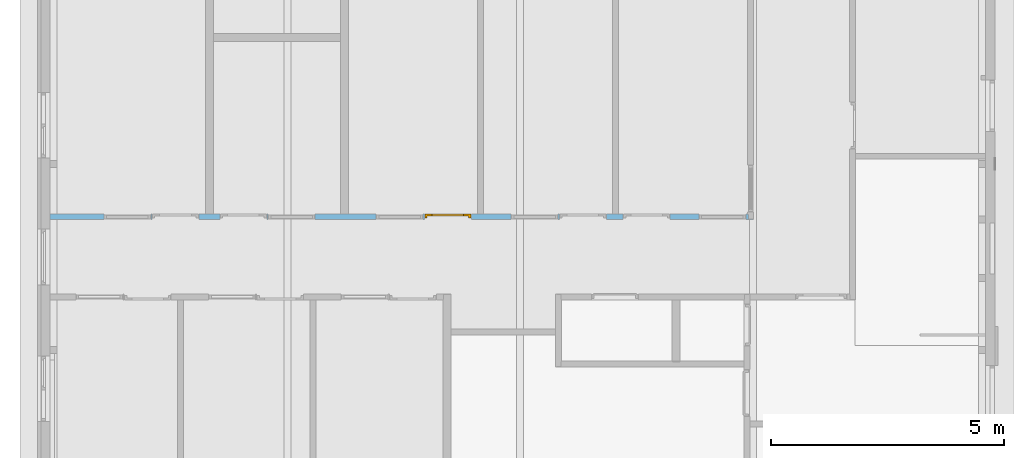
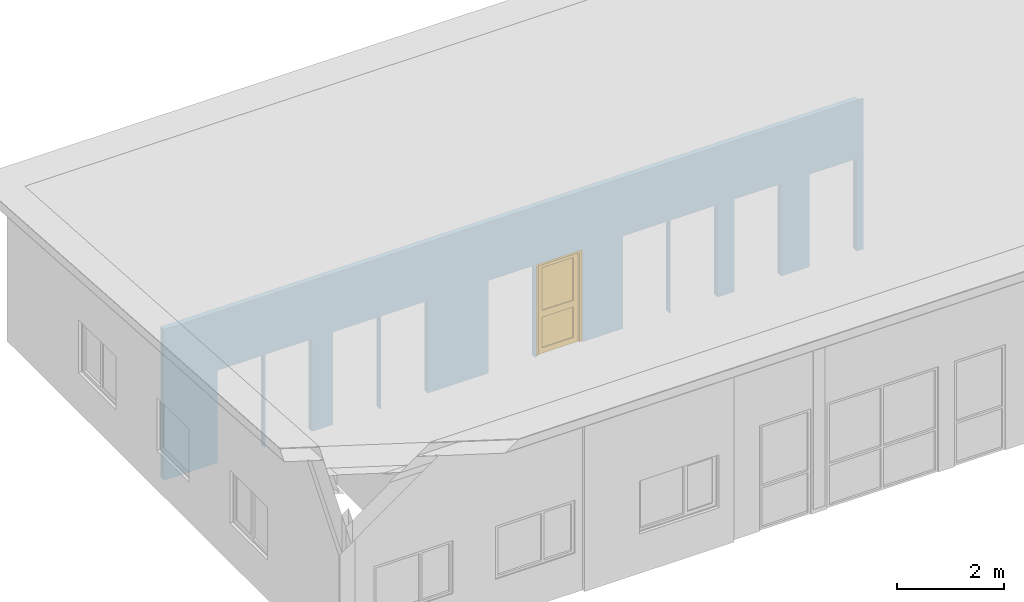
# One storey, part 20 of 37: 1 door, 10 openings, plus 1 element that does not belong to this part.
"""IFC2X3 building model written with IfcOpenShell, lengths in millimetres."""

from ifc_helpers import new_model, entity, si_unit, converted_unit, frame, frame_2d, origin, origin_with_axes, place, context, subcontext, project, spatial, polyline, rectangle, outline, extrude, clip, halfspace, faceted_brep, material, layer, layer_set, layer_usage, type_object, element, fill, save


model = new_model("IFC2X3")

# Units and contexts
model_context = context("Model", 3, precision=1e-05, world=origin())
plan_context = context("Plan", 3, precision=1e-05, world=origin())
body_context = subcontext(model_context, "Body", "Model", "MODEL_VIEW")
ifc_project = project(units=[si_unit("LENGTHUNIT", "METRE", prefix="MILLI"), converted_unit("PLANEANGLEUNIT", "DEGREE", entity("IfcPlaneAngleMeasure", 0.0174532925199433), si_unit("PLANEANGLEUNIT", "RADIAN"), dimensions=[0, 0, 0, 0, 0, 0, 0]), si_unit("AREAUNIT", "SQUARE_METRE"), si_unit("VOLUMEUNIT", "CUBIC_METRE")], contexts=[model_context, plan_context])

# Building, storey
building_placement = place(None, origin())
building = spatial("IfcBuilding", under=ifc_project, at=building_placement, Name="HEKF Administrasjonbygg", CompositionType="ELEMENT")
storey_placement = place(building_placement, frame((0.0, 0.0, 9900.0), z_axis=(0.0, 0.0, 1.0), x_axis=(1.0, 0.0, 0.0)))
storey = spatial("IfcBuildingStorey", under=building, at=storey_placement, Name="Plan 2", CompositionType="ELEMENT", Elevation=9900.0)

# Wall, openings, door
ifc_material_1 = material(Name="gips")
ifc_layer_1 = layer(ifc_material_1, 13.0)
ifc_material_2 = material(Name="riegel stål 100")
ifc_layer_2 = layer(ifc_material_2, 100.0)
ifc_material_3 = material(Name="gips")
ifc_layer_3 = layer(ifc_material_3, 13.0)
ifc_layer_set = layer_set([ifc_layer_1, ifc_layer_2, ifc_layer_3])
ifc_layer_usage = layer_usage(ifc_layer_set, "AXIS2", "POSITIVE", 0.0)
wall_placement = place(storey_placement, frame((24887.0, -5075.0, 0.0), z_axis=(0.0, 0.0, 1.0), x_axis=(-1.0, 0.0, 0.0)))
wall = element("IfcWallStandardCase", 1, at=wall_placement, inside=storey, material=ifc_layer_usage, context=body_context, shape_type="Clipping", body=[
    clip(extrude(outline(polyline([(-113.0, 126.0), (-113.0, 113.0), (-13.0, 113.0), (-13.0, 13.0), (0.0, 13.0), (0.0, 0.0), (2774.0, 0.0), (2774.0, 13.0), (2787.0, 13.0), (2787.0, 0.0), (14987.00000000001, 0.0), (14987.00000000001, 126.0), (-113.0, 126.0)])), origin_with_axes(), (0.0, 0.0, 1.0), 3446.733333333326), halfspace(frame((2787.0, 0.0, 3438.333333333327), z_axis=(-9.402241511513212e-18, 0.06651901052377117, -0.9977851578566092), x_axis=(1.0, 0.0, 0.0)), True)),
])
opening_1_placement = place(wall_placement, frame((9293.284477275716, 0.0, 0.0), z_axis=(0.0, 1.0, 0.0), x_axis=(0.0, 0.0, 1.0)))
element("IfcOpeningElement", 2, at=opening_1_placement, cuts=wall, Name="Window opening", ObjectType="Opening", context=body_context, shape_type="SweptSolid", body=[
    extrude(rectangle(XDim=2110.0, YDim=1010.0, at=frame_2d((1055.0, 505.0), x_axis=(1.0, 0.0))), origin_with_axes(), (0.0, 0.0, 1.0), 126.0),
])
opening_2_placement = place(wall_placement, frame((6972.0, 0.0, 0.0), z_axis=(0.0, 1.0, 0.0), x_axis=(0.0, 0.0, 1.0)))
element("IfcOpeningElement", 3, at=opening_2_placement, cuts=wall, Name="Window opening", ObjectType="Opening", context=body_context, shape_type="SweptSolid", body=[
    extrude(rectangle(XDim=2110.0, YDim=1010.0, at=frame_2d((1055.0, 505.0), x_axis=(1.0, 0.0))), origin_with_axes(), (0.0, 0.0, 1.0), 126.0),
])
opening_3_placement = place(wall_placement, frame((12823.28447727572, 0.0, 0.0), z_axis=(0.0, 1.0, 0.0), x_axis=(0.0, 0.0, 1.0)))
element("IfcOpeningElement", 4, at=opening_3_placement, cuts=wall, Name="Window opening", ObjectType="Opening", context=body_context, shape_type="SweptSolid", body=[
    extrude(rectangle(XDim=2110.0, YDim=1010.0, at=frame_2d((1055.0, 505.0), x_axis=(1.0, 0.0))), origin_with_axes(), (0.0, 0.0, 1.0), 126.0),
])
opening_4_placement = place(wall_placement, frame((4072.0, 0.0, 0.0), z_axis=(0.0, 1.0, 0.0), x_axis=(0.0, 0.0, 1.0)))
element("IfcOpeningElement", 5, at=opening_4_placement, cuts=wall, Name="Window opening", ObjectType="Opening", context=body_context, shape_type="SweptSolid", body=[
    extrude(rectangle(XDim=2110.0, YDim=1010.0, at=frame_2d((1055.0, 505.0), x_axis=(1.0, 0.0))), origin_with_axes(), (0.0, 0.0, 1.0), 126.0),
])
opening_5_placement = place(wall_placement, frame((37.0, 0.0, 0.0), z_axis=(0.0, 1.0, 0.0), x_axis=(0.0, 0.0, 1.0)))
element("IfcOpeningElement", 6, at=opening_5_placement, cuts=wall, Name="Window opening", ObjectType="Opening", context=body_context, shape_type="SweptSolid", body=[
    extrude(rectangle(XDim=2110.0, YDim=1010.0, at=frame_2d((1055.0, 505.0), x_axis=(1.0, 0.0))), origin_with_axes(), (0.0, 0.0, 1.0), 126.0),
])
opening_6_placement = place(wall_placement, frame((11788.28447727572, 0.0, 0.0), z_axis=(0.0, 1.0, 0.0), x_axis=(0.0, 0.0, 1.0)))
element("IfcOpeningElement", 7, at=opening_6_placement, cuts=wall, Name="garasjeport med glassfelter:45x6", ObjectType="Opening", context=body_context, shape_type="SweptSolid", body=[
    extrude(rectangle(XDim=2110.0, YDim=1010.0, at=frame_2d((1055.0, 505.0), x_axis=(1.0, 0.0))), origin_with_axes(), (0.0, 0.0, 1.0), 126.0),
])
opening_7_placement = place(wall_placement, frame((10328.28447727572, 0.0, 0.0), z_axis=(0.0, 1.0, 0.0), x_axis=(0.0, 0.0, 1.0)))
element("IfcOpeningElement", 8, at=opening_7_placement, cuts=wall, Name="garasjeport med glassfelter:45x6", ObjectType="Opening", context=body_context, shape_type="SweptSolid", body=[
    extrude(rectangle(XDim=2110.0, YDim=1010.0, at=frame_2d((1055.0, 505.0), x_axis=(1.0, 0.0))), origin_with_axes(), (0.0, 0.0, 1.0), 126.0),
])
opening_8_placement = place(wall_placement, frame((5937.0, 0.0, 0.0), z_axis=(0.0, 1.0, 0.0), x_axis=(0.0, 0.0, 1.0)))
opening_8 = element("IfcOpeningElement", 9, at=opening_8_placement, cuts=wall, Name="garasjeport med glassfelter:45x6", ObjectType="Opening", context=body_context, shape_type="SweptSolid", body=[
    extrude(rectangle(XDim=2110.0, YDim=1010.0, at=frame_2d((1055.0, 505.0), x_axis=(1.0, 0.0))), origin_with_axes(), (0.0, 0.0, 1.0), 126.0),
])
opening_9_placement = place(wall_placement, frame((3037.0, 0.0, 0.0), z_axis=(0.0, 1.0, 0.0), x_axis=(0.0, 0.0, 1.0)))
element("IfcOpeningElement", 10, at=opening_9_placement, cuts=wall, Name="garasjeport med glassfelter:45x6", ObjectType="Opening", context=body_context, shape_type="SweptSolid", body=[
    extrude(rectangle(XDim=2110.0, YDim=1010.0, at=frame_2d((1055.0, 505.0), x_axis=(1.0, 0.0))), origin_with_axes(), (0.0, 0.0, 1.0), 126.0),
])
opening_10_placement = place(wall_placement, frame((1664.0, 0.0, 0.0), z_axis=(0.0, 1.0, 0.0), x_axis=(0.0, 0.0, 1.0)))
element("IfcOpeningElement", 11, at=opening_10_placement, cuts=wall, Name="garasjeport med glassfelter:45x6", ObjectType="Opening", context=body_context, shape_type="SweptSolid", body=[
    extrude(rectangle(XDim=2110.0, YDim=1010.0, at=frame_2d((1055.0, 505.0), x_axis=(1.0, 0.0))), origin_with_axes(), (0.0, 0.0, 1.0), 126.0),
])
ifc_material_4 = material()
door_style = type_object("IfcDoorStyle", Name="D109", ConstructionType="NOTDEFINED", OperationType="USERDEFINED", ParameterTakesPrecedence=False, Sizeable=False)
door_placement = place(opening_8_placement, frame((0.0, 0.0, 0.0), z_axis=(1.0, 0.0, 0.0), x_axis=(0.0, 1.0, 0.0)))
door = element("IfcDoor", 12, at=door_placement, inside=storey, type_object=door_style, material=ifc_material_4, Name="D109", OverallHeight=2110.0, OverallWidth=1010.0, context=body_context, shape_type="Brep", body=[
    faceted_brep([(9.999999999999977, 0.9999999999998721, 2090.0), (59.99999999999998, 0.9999999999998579, 2090.0), (59.99999999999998, 0.9999999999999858, -2.816687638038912e-15), (9.999999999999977, 1.0, -2.816687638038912e-15), (10.0, 93.00000000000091, 2.816687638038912e-15), (60.0, 93.0000000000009, 2.816687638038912e-15), (60.0, 93.00000000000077, 2090.0), (10.0, 93.00000000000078, 2090.0), (9.999999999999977, 1.0, -2.816687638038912e-15), (10.0, 93.00000000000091, 2.816687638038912e-15), (10.0, 93.00000000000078, 2090.0), (9.999999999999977, 0.9999999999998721, 2090.0), (59.99999999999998, 0.9999999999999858, -2.816687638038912e-15), (60.0, 93.0000000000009, 2.816687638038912e-15), (10.0, 93.00000000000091, 2.816687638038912e-15), (9.999999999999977, 1.0, -2.816687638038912e-15), (59.99999999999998, 0.9999999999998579, 2090.0), (60.0, 93.00000000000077, 2090.0), (60.0, 93.0000000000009, 2.816687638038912e-15), (59.99999999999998, 0.9999999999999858, -2.816687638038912e-15), (9.999999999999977, 0.9999999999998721, 2090.0), (10.0, 93.00000000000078, 2090.0), (60.0, 93.00000000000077, 2090.0), (59.99999999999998, 0.9999999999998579, 2090.0)], [[[0, 1, 2, 3]], [[4, 5, 6, 7]], [[8, 9, 10, 11]], [[12, 13, 14, 15]], [[16, 17, 18, 19]], [[20, 21, 22, 23]]], orient=[[False], [False], [False], [False], [False], [False]]),
    faceted_brep([(950.0, 0.9999999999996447, 2090.0), (1000.0, 0.9999999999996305, 2090.0), (1000.0, 0.9999999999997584, -2.816687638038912e-15), (950.0, 0.9999999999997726, -2.816687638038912e-15), (950.0, 93.00000000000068, 2.816687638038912e-15), (1000.0, 93.00000000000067, 2.816687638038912e-15), (1000.0, 93.00000000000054, 2090.0), (950.0, 93.00000000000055, 2090.0), (950.0, 0.9999999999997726, -2.816687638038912e-15), (950.0, 93.00000000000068, 2.816687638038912e-15), (950.0, 93.00000000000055, 2090.0), (950.0, 0.9999999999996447, 2090.0), (1000.0, 0.9999999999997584, -2.816687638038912e-15), (1000.0, 93.00000000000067, 2.816687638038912e-15), (950.0, 93.00000000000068, 2.816687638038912e-15), (950.0, 0.9999999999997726, -2.816687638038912e-15), (1000.0, 0.9999999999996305, 2090.0), (1000.0, 93.00000000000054, 2090.0), (1000.0, 93.00000000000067, 2.816687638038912e-15), (1000.0, 0.9999999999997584, -2.816687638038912e-15), (950.0, 0.9999999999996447, 2090.0), (950.0, 93.00000000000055, 2090.0), (1000.0, 93.00000000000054, 2090.0), (1000.0, 0.9999999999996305, 2090.0)], [[[0, 1, 2, 3]], [[4, 5, 6, 7]], [[8, 9, 10, 11]], [[12, 13, 14, 15]], [[16, 17, 18, 19]], [[20, 21, 22, 23]]], orient=[[False], [False], [False], [False], [False], [False]]),
    faceted_brep([(59.99999999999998, 0.9999999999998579, 2090.0), (949.9999999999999, 0.9999999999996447, 2090.0), (949.9999999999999, 0.9999999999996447, 2040.0), (59.99999999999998, 0.9999999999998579, 2040.0), (60.0, 93.00000000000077, 2040.0), (949.9999999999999, 93.00000000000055, 2040.0), (949.9999999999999, 93.00000000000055, 2090.0), (60.0, 93.00000000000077, 2090.0), (59.99999999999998, 0.9999999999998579, 2040.0), (60.0, 93.00000000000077, 2040.0), (60.0, 93.00000000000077, 2090.0), (59.99999999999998, 0.9999999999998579, 2090.0), (949.9999999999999, 0.9999999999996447, 2040.0), (949.9999999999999, 93.00000000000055, 2040.0), (60.0, 93.00000000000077, 2040.0), (59.99999999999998, 0.9999999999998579, 2040.0), (949.9999999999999, 0.9999999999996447, 2090.0), (949.9999999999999, 93.00000000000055, 2090.0), (949.9999999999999, 93.00000000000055, 2040.0), (949.9999999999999, 0.9999999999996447, 2040.0), (59.99999999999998, 0.9999999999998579, 2090.0), (60.0, 93.00000000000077, 2090.0), (949.9999999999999, 93.00000000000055, 2090.0), (949.9999999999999, 0.9999999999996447, 2090.0)], [[[0, 1, 2, 3]], [[4, 5, 6, 7]], [[8, 9, 10, 11]], [[12, 13, 14, 15]], [[16, 17, 18, 19]], [[20, 21, 22, 23]]], orient=[[False], [False], [False], [False], [False], [False]]),
    faceted_brep([(39.99999999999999, 0.9999999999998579, 2060.0), (165.0, 0.9999999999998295, 2060.0), (165.0, 0.9999999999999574, -20.0), (39.99999999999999, 0.9999999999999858, -20.0), (39.99999999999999, 41.00000000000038, -20.0), (165.0, 41.00000000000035, -20.0), (165.0, 41.00000000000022, 2060.0), (39.99999999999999, 41.00000000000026, 2060.0), (39.99999999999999, 0.9999999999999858, -20.0), (39.99999999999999, 41.00000000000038, -20.0), (39.99999999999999, 41.00000000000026, 2060.0), (39.99999999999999, 0.9999999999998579, 2060.0), (165.0, 0.9999999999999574, -20.0), (165.0, 41.00000000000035, -20.0), (39.99999999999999, 41.00000000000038, -20.0), (39.99999999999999, 0.9999999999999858, -20.0), (165.0, 0.9999999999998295, 2060.0), (165.0, 41.00000000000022, 2060.0), (165.0, 41.00000000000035, -20.0), (165.0, 0.9999999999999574, -20.0), (39.99999999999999, 0.9999999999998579, 2060.0), (39.99999999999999, 41.00000000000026, 2060.0), (165.0, 41.00000000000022, 2060.0), (165.0, 0.9999999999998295, 2060.0)], [[[0, 1, 2, 3]], [[4, 5, 6, 7]], [[8, 9, 10, 11]], [[12, 13, 14, 15]], [[16, 17, 18, 19]], [[20, 21, 22, 23]]], orient=[[False], [False], [False], [False], [False], [False]]),
    faceted_brep([(844.9999999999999, 0.9999999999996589, 2060.0), (969.9999999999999, 0.9999999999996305, 2060.0), (969.9999999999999, 0.9999999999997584, -20.0), (844.9999999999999, 0.9999999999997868, -20.0), (844.9999999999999, 41.00000000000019, -20.0), (969.9999999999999, 41.00000000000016, -20.0), (969.9999999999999, 41.00000000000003, 2060.0), (844.9999999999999, 41.00000000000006, 2060.0), (844.9999999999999, 0.9999999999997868, -20.0), (844.9999999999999, 41.00000000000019, -20.0), (844.9999999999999, 41.00000000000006, 2060.0), (844.9999999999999, 0.9999999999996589, 2060.0), (969.9999999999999, 0.9999999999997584, -20.0), (969.9999999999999, 41.00000000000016, -20.0), (844.9999999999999, 41.00000000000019, -20.0), (844.9999999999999, 0.9999999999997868, -20.0), (969.9999999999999, 0.9999999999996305, 2060.0), (969.9999999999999, 41.00000000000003, 2060.0), (969.9999999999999, 41.00000000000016, -20.0), (969.9999999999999, 0.9999999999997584, -20.0), (844.9999999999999, 0.9999999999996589, 2060.0), (844.9999999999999, 41.00000000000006, 2060.0), (969.9999999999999, 41.00000000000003, 2060.0), (969.9999999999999, 0.9999999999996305, 2060.0)], [[[0, 1, 2, 3]], [[4, 5, 6, 7]], [[8, 9, 10, 11]], [[12, 13, 14, 15]], [[16, 17, 18, 19]], [[20, 21, 22, 23]]], orient=[[False], [False], [False], [False], [False], [False]]),
    faceted_brep([(165.0, 0.9999999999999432, 105.0), (844.9999999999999, 0.9999999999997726, 105.0), (844.9999999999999, 0.9999999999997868, -20.0), (165.0, 0.9999999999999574, -20.0), (165.0, 41.00000000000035, -20.0), (844.9999999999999, 41.00000000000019, -20.0), (844.9999999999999, 41.00000000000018, 105.0), (165.0, 41.00000000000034, 105.0), (165.0, 0.9999999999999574, -20.0), (165.0, 41.00000000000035, -20.0), (165.0, 41.00000000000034, 105.0), (165.0, 0.9999999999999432, 105.0), (844.9999999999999, 0.9999999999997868, -20.0), (844.9999999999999, 41.00000000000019, -20.0), (165.0, 41.00000000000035, -20.0), (165.0, 0.9999999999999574, -20.0), (844.9999999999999, 0.9999999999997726, 105.0), (844.9999999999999, 41.00000000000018, 105.0), (844.9999999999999, 41.00000000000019, -20.0), (844.9999999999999, 0.9999999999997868, -20.0), (165.0, 0.9999999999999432, 105.0), (165.0, 41.00000000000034, 105.0), (844.9999999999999, 41.00000000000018, 105.0), (844.9999999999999, 0.9999999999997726, 105.0)], [[[0, 1, 2, 3]], [[4, 5, 6, 7]], [[8, 9, 10, 11]], [[12, 13, 14, 15]], [[16, 17, 18, 19]], [[20, 21, 22, 23]]], orient=[[False], [False], [False], [False], [False], [False]]),
    faceted_brep([(165.0, 0.9999999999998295, 2060.0), (844.9999999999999, 0.9999999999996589, 2060.0), (844.9999999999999, 0.9999999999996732, 1935.0), (165.0, 0.9999999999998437, 1935.0), (165.0, 41.00000000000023, 1935.0), (844.9999999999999, 41.00000000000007, 1935.0), (844.9999999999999, 41.00000000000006, 2060.0), (165.0, 41.00000000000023, 2060.0), (165.0, 0.9999999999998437, 1935.0), (165.0, 41.00000000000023, 1935.0), (165.0, 41.00000000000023, 2060.0), (165.0, 0.9999999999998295, 2060.0), (844.9999999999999, 0.9999999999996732, 1935.0), (844.9999999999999, 41.00000000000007, 1935.0), (165.0, 41.00000000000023, 1935.0), (165.0, 0.9999999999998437, 1935.0), (844.9999999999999, 0.9999999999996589, 2060.0), (844.9999999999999, 41.00000000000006, 2060.0), (844.9999999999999, 41.00000000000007, 1935.0), (844.9999999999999, 0.9999999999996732, 1935.0), (165.0, 0.9999999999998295, 2060.0), (165.0, 41.00000000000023, 2060.0), (844.9999999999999, 41.00000000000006, 2060.0), (844.9999999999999, 0.9999999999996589, 2060.0)], [[[0, 1, 2, 3]], [[4, 5, 6, 7]], [[8, 9, 10, 11]], [[12, 13, 14, 15]], [[16, 17, 18, 19]], [[20, 21, 22, 23]]], orient=[[False], [False], [False], [False], [False], [False]]),
    faceted_brep([(165.0, 0.9999999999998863, 955.0), (844.9999999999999, 0.9999999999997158, 955.0), (844.9999999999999, 0.99999999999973, 805.0), (165.0, 0.9999999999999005, 805.0), (165.0, 41.00000000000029, 805.0), (844.9999999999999, 41.00000000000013, 805.0), (844.9999999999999, 41.00000000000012, 955.0), (165.0, 41.00000000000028, 955.0), (165.0, 0.9999999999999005, 805.0), (165.0, 41.00000000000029, 805.0), (165.0, 41.00000000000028, 955.0), (165.0, 0.9999999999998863, 955.0), (844.9999999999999, 0.99999999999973, 805.0), (844.9999999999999, 41.00000000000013, 805.0), (165.0, 41.00000000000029, 805.0), (165.0, 0.9999999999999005, 805.0), (844.9999999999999, 0.9999999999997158, 955.0), (844.9999999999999, 41.00000000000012, 955.0), (844.9999999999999, 41.00000000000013, 805.0), (844.9999999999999, 0.99999999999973, 805.0), (165.0, 0.9999999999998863, 955.0), (165.0, 41.00000000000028, 955.0), (844.9999999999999, 41.00000000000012, 955.0), (844.9999999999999, 0.9999999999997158, 955.0)], [[[0, 1, 2, 3]], [[4, 5, 6, 7]], [[8, 9, 10, 11]], [[12, 13, 14, 15]], [[16, 17, 18, 19]], [[20, 21, 22, 23]]], orient=[[False], [False], [False], [False], [False], [False]]),
    faceted_brep([(165.0, 21.00000000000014, 105.0), (165.0, 21.0000000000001, 805.0), (844.9999999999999, 20.99999999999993, 805.0), (844.9999999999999, 20.99999999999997, 105.0), (165.0, 22.00000000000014, 105.0), (844.9999999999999, 21.99999999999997, 105.0), (844.9999999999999, 21.99999999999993, 805.0), (165.0, 22.0000000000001, 805.0), (165.0, 21.00000000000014, 105.0), (165.0, 22.00000000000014, 105.0), (165.0, 22.0000000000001, 805.0), (165.0, 21.0000000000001, 805.0), (165.0, 21.0000000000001, 805.0), (165.0, 22.0000000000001, 805.0), (844.9999999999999, 21.99999999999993, 805.0), (844.9999999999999, 20.99999999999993, 805.0), (844.9999999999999, 20.99999999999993, 805.0), (844.9999999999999, 21.99999999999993, 805.0), (844.9999999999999, 21.99999999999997, 105.0), (844.9999999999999, 20.99999999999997, 105.0), (844.9999999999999, 20.99999999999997, 105.0), (844.9999999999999, 21.99999999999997, 105.0), (165.0, 22.00000000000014, 105.0), (165.0, 21.00000000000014, 105.0)], [[[0, 1, 2, 3]], [[4, 5, 6, 7]], [[8, 9, 10, 11]], [[12, 13, 14, 15]], [[16, 17, 18, 19]], [[20, 21, 22, 23]]], orient=[[False], [False], [False], [False], [False], [False]]),
    faceted_brep([(165.0, 21.0000000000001, 955.0), (165.0, 21.00000000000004, 1935.0), (844.9999999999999, 20.99999999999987, 1935.0), (844.9999999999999, 20.99999999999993, 955.0), (165.0, 22.0000000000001, 955.0), (844.9999999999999, 21.99999999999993, 955.0), (844.9999999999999, 21.99999999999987, 1935.0), (165.0, 22.00000000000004, 1935.0), (165.0, 21.0000000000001, 955.0), (165.0, 22.0000000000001, 955.0), (165.0, 22.00000000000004, 1935.0), (165.0, 21.00000000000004, 1935.0), (165.0, 21.00000000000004, 1935.0), (165.0, 22.00000000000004, 1935.0), (844.9999999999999, 21.99999999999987, 1935.0), (844.9999999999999, 20.99999999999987, 1935.0), (844.9999999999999, 20.99999999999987, 1935.0), (844.9999999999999, 21.99999999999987, 1935.0), (844.9999999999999, 21.99999999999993, 955.0), (844.9999999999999, 20.99999999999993, 955.0), (844.9999999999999, 20.99999999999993, 955.0), (844.9999999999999, 21.99999999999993, 955.0), (165.0, 22.0000000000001, 955.0), (165.0, 21.0000000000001, 955.0)], [[[0, 1, 2, 3]], [[4, 5, 6, 7]], [[8, 9, 10, 11]], [[12, 13, 14, 15]], [[16, 17, 18, 19]], [[20, 21, 22, 23]]], orient=[[False], [False], [False], [False], [False], [False]]),
])
fill(opening_8, door)

save(model, "model.ifc")
